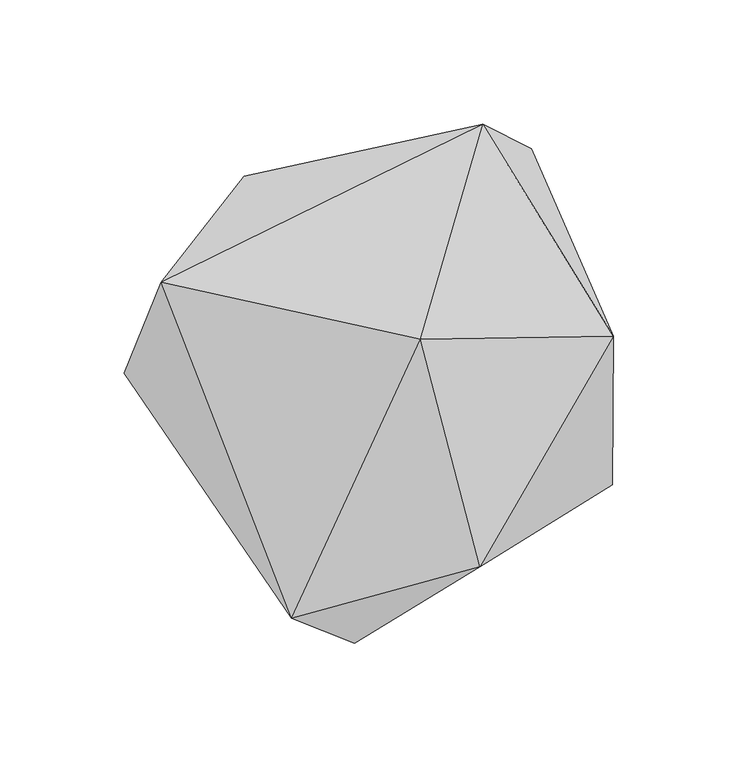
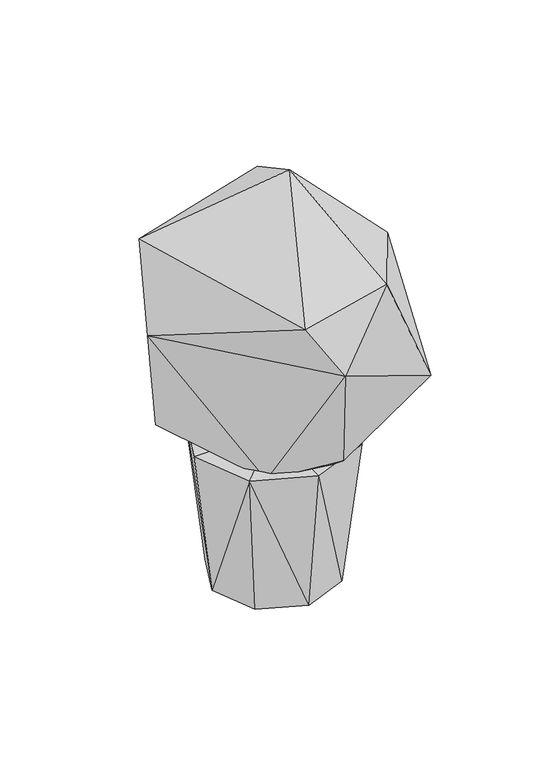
"""IFC4 building model written with IfcOpenShell, lengths in millimetres: geographic element geometry, Enscape AssetDefinition - Rosemary, Potted : Enscape AssetDefinition - Rosemary, Potted."""

from ifc_helpers import new_model, si_unit, origin, place, context, project, spatial, faceted_brep, source, transform, mapped, element, save


def geographic_element_69d9df20(model_context):
    return source(origin(), model_context, "Body", "Brep", [
        faceted_brep([(18.6233632, 10.6047671, 318.2847798), (42.4503572, -80.7902142, 270.5594301), (96.1654633, 11.8611865, 238.4850383), (-33.2995132, -101.4258116, 271.9116807), (-8.0273952, -111.5905792, 230.8741659), (95.7264528, -47.8485599, 156.6026658), (43.6598435, 96.8743414, 260.0778639), (-85.7445225, 33.4158689, 283.8236988), (-100.4861817, -3.1337154, 231.117636), (-27.7390052, -38.9656276, 107.957229), (16.3471419, -66.8346733, 125.1227558), (65.8226907, -4.7235508, 131.0147196), (4.3686242, 14.0132327, 59.0654016), (-85.7024714, 11.1865327, 143.4156448), (-68.0099428, 40.4097736, 134.8837167), (5.0198114, 51.5591502, 91.8525755), (63.222833, 87.0615616, 162.4477059), (-52.3433164, 76.143913, 234.5280498)], [[[0, 1, 2]], [[3, 4, 1]], [[5, 1, 4]], [[1, 0, 3]], [[1, 5, 2]], [[0, 2, 6]], [[3, 0, 7]], [[0, 6, 7]], [[3, 7, 8]], [[4, 3, 8]], [[9, 10, 4]], [[10, 5, 4]], [[8, 9, 4]], [[10, 11, 5]], [[11, 2, 5]], [[9, 12, 10]], [[10, 12, 11]], [[8, 13, 9]], [[14, 12, 9]], [[9, 13, 14]], [[14, 15, 12]], [[15, 11, 12]], [[16, 2, 11]], [[16, 11, 15]], [[6, 16, 15]], [[14, 17, 15]], [[15, 17, 6]], [[8, 14, 13]], [[14, 8, 17]], [[8, 7, 17]], [[7, 6, 17]], [[6, 2, 16]]]),
        faceted_brep([(34.0181664, 34.0181664, 0.0), (0.0, 48.1086448, 0.0), (43.9365506, 43.9365506, 115.5231297), (0.0, 0.0, 0.0), (-34.0181664, 34.0181664, 0.0), (-43.9365506, 43.9365506, 115.5231297), (0.0, 62.1355623, 115.5231297), (62.1355623, 0.0, 115.5231297), (0.0, 0.0, 115.8927158), (48.1086448, 0.0, 0.0), (43.9365506, -43.9365506, 115.5231297), (34.0181664, -34.0181664, 0.0), (0.0, -62.1355623, 115.5231297), (0.0, -48.1086448, 0.0), (-43.9365506, -43.9365506, 115.5231297), (-34.0181664, -34.0181664, 0.0), (-62.1355623, 0.0, 115.5231297), (-48.1086448, 0.0, 0.0)], [[[0, 1, 2]], [[3, 4, 1]], [[4, 5, 1]], [[3, 1, 0]], [[2, 1, 6]], [[1, 5, 6]], [[7, 2, 8]], [[8, 2, 6]], [[2, 7, 0]], [[3, 0, 9]], [[0, 7, 9]], [[8, 10, 7]], [[10, 9, 7]], [[3, 9, 11]], [[11, 9, 10]], [[10, 12, 11]], [[12, 10, 8]], [[3, 11, 13]], [[11, 12, 13]], [[14, 12, 8]], [[12, 14, 13]], [[3, 13, 15]], [[13, 14, 15]], [[16, 17, 14]], [[8, 16, 14]], [[14, 17, 15]], [[3, 15, 17]], [[4, 17, 5]], [[3, 17, 4]], [[5, 17, 16]], [[16, 8, 5]], [[6, 5, 8]]]),
    ])


if __name__ == "__main__":
    model = new_model("IFC4")
    model_context = context("Model", 3, world=origin())
    ifc_project = project(units=[si_unit("LENGTHUNIT", "METRE", prefix="MILLI")], contexts=[model_context])
    site = spatial("IfcSite", under=ifc_project)
    building = spatial("IfcBuilding", under=site)
    placement = place(None, origin())
    geographic_element_shape = geographic_element_69d9df20(model_context)
    element("IfcGeographicElement", 1, ObjectType="Enscape AssetDefinition - Rosemary, Potted : Enscape AssetDefinition - Rosemary, Potted", at=placement, inside=building, context=model_context, shape_type="MappedRepresentation", body=[
        mapped(geographic_element_shape, transform((0.0, 0.0, 0.0), x_axis=(1.0, 0.0, 0.0), y_axis=(0.0, 1.0, 0.0), z_axis=(0.0, 0.0, 1.0))),
    ])
    save(model, "model.ifc")
